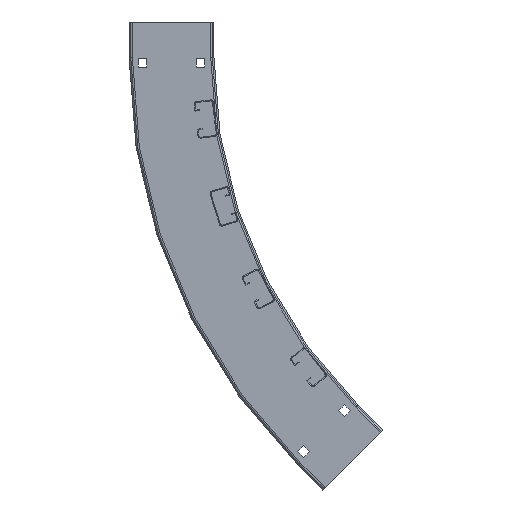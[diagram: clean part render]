
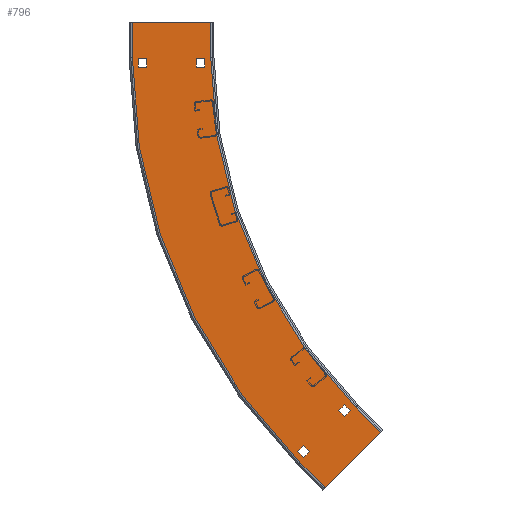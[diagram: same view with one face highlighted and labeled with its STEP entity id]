
A CAD part, left-side view. The second image highlights one B-rep face of the part: STEP entity #796.
In plain terms, the highlighted planar face has unit normal (-1, 0, 0).
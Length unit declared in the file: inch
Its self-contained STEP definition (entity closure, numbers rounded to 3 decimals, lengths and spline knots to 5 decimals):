
#1=DIRECTION('',(0.,-0.707,-0.707));
#2=VECTOR('',#1,3.833);
#3=CARTESIAN_POINT('',(0.,18.55802,21.03289));
#4=LINE('',#3,#2);
#5=DIRECTION('',(0.,1.,0.));
#6=VECTOR('',#5,3.833);
#7=CARTESIAN_POINT('',(0.,24.162,-1.75));
#8=LINE('',#7,#6);
#9=DIRECTION('',(0.,0.,-1.));
#10=VECTOR('',#9,0.41);
#11=CARTESIAN_POINT('',(0.,27.701,0.455));
#12=LINE('',#11,#10);
#13=DIRECTION('',(0.,-1.,0.));
#14=VECTOR('',#13,0.41);
#15=CARTESIAN_POINT('',(0.,27.701,0.045));
#16=LINE('',#15,#14);
#17=DIRECTION('',(0.,0.,1.));
#18=VECTOR('',#17,0.41);
#19=CARTESIAN_POINT('',(0.,27.291,0.045));
#20=LINE('',#19,#18);
#21=DIRECTION('',(0.,1.,0.));
#22=VECTOR('',#21,0.41);
#23=CARTESIAN_POINT('',(0.,27.291,0.455));
#24=LINE('',#23,#22);
#25=DIRECTION('',(0.,1.,0.));
#26=VECTOR('',#25,0.41);
#27=CARTESIAN_POINT('',(0.,24.456,0.455));
#28=LINE('',#27,#26);
#29=DIRECTION('',(0.,0.,-1.));
#30=VECTOR('',#29,0.41);
#31=CARTESIAN_POINT('',(0.,24.866,0.455));
#32=LINE('',#31,#30);
#33=DIRECTION('',(0.,-1.,0.));
#34=VECTOR('',#33,0.41);
#35=CARTESIAN_POINT('',(0.,24.866,0.045));
#36=LINE('',#35,#34);
#37=DIRECTION('',(0.,0.,1.));
#38=VECTOR('',#37,0.41);
#39=CARTESIAN_POINT('',(0.,24.456,0.045));
#40=LINE('',#39,#38);
#41=DIRECTION('',(0.,-0.707,-0.707));
#42=VECTOR('',#41,0.41);
#43=CARTESIAN_POINT('',(0.,17.90378,17.26032));
#44=LINE('',#43,#42);
#45=DIRECTION('',(0.,-0.707,0.707));
#46=VECTOR('',#45,0.41);
#47=CARTESIAN_POINT('',(0.,17.61387,16.9704));
#48=LINE('',#47,#46);
#49=DIRECTION('',(0.,0.707,0.707));
#50=VECTOR('',#49,0.41);
#51=CARTESIAN_POINT('',(0.,17.32396,17.26032));
#52=LINE('',#51,#50);
#53=DIRECTION('',(0.,0.707,-0.707));
#54=VECTOR('',#53,0.41);
#55=CARTESIAN_POINT('',(0.,17.61387,17.55023));
#56=LINE('',#55,#54);
#57=DIRECTION('',(0.,0.707,0.707));
#58=VECTOR('',#57,0.41);
#59=CARTESIAN_POINT('',(0.,19.32869,19.26505));
#60=LINE('',#59,#58);
#61=DIRECTION('',(0.,0.707,-0.707));
#62=VECTOR('',#61,0.41);
#63=CARTESIAN_POINT('',(0.,19.61861,19.55497));
#64=LINE('',#63,#62);
#65=DIRECTION('',(0.,-0.707,-0.707));
#66=VECTOR('',#65,0.41);
#67=CARTESIAN_POINT('',(0.,19.90852,19.26505));
#68=LINE('',#67,#66);
#69=DIRECTION('',(0.,-0.707,0.707));
#70=VECTOR('',#69,0.41);
#71=CARTESIAN_POINT('',(0.,19.61861,18.97514));
#72=LINE('',#71,#70);
#73=DIRECTION('',(0.,0.,1.));
#74=VECTOR('',#73,1.75);
#75=CARTESIAN_POINT('',(0.,27.995,-1.75));
#76=LINE('',#75,#74);
#114=DIRECTION('',(0.,0.,-1.));
#115=VECTOR('',#114,1.75);
#116=CARTESIAN_POINT('',(0.,24.162,0.));
#117=LINE('',#116,#115);
#123=CARTESIAN_POINT('',(0.,0.,0.));
#124=DIRECTION('',(-1.,0.,0.));
#125=DIRECTION('',(0.,0.707,0.707));
#126=AXIS2_PLACEMENT_3D('',#123,#124,#125);
#128=DIRECTION('',(0.,0.707,-0.707));
#129=VECTOR('',#128,1.75);
#130=CARTESIAN_POINT('',(0.,15.84768,18.32255));
#131=LINE('',#130,#129);
#169=DIRECTION('',(0.,-0.707,0.707));
#170=VECTOR('',#169,1.75);
#171=CARTESIAN_POINT('',(0.,19.79545,19.79545));
#172=LINE('',#171,#170);
#178=CARTESIAN_POINT('',(0.,0.,0.));
#179=DIRECTION('',(1.,0.,0.));
#180=DIRECTION('',(0.,1.,0.));
#181=AXIS2_PLACEMENT_3D('',#178,#179,#180);
#573=CARTESIAN_POINT('',(0.,15.84768,18.32255));
#575=VERTEX_POINT('',#573);
#579=CARTESIAN_POINT('',(0.,17.08511,17.08511));
#581=VERTEX_POINT('',#579);
#585=CARTESIAN_POINT('',(0.,24.162,0.));
#587=VERTEX_POINT('',#585);
#591=CARTESIAN_POINT('',(0.,24.162,-1.75));
#593=VERTEX_POINT('',#591);
#621=CARTESIAN_POINT('',(0.,27.995,-1.75));
#622=VERTEX_POINT('',#621);
#623=CARTESIAN_POINT('',(0.,18.55802,21.03289));
#624=VERTEX_POINT('',#623);
#629=CARTESIAN_POINT('',(0.,27.995,0.));
#631=VERTEX_POINT('',#629);
#635=CARTESIAN_POINT('',(0.,19.79545,19.79545));
#637=VERTEX_POINT('',#635);
#669=CARTESIAN_POINT('',(0.,27.701,0.455));
#670=CARTESIAN_POINT('',(0.,27.701,0.045));
#671=VERTEX_POINT('',#669);
#672=VERTEX_POINT('',#670);
#673=CARTESIAN_POINT('',(0.,27.291,0.045));
#674=VERTEX_POINT('',#673);
#675=CARTESIAN_POINT('',(0.,27.291,0.455));
#676=VERTEX_POINT('',#675);
#677=CARTESIAN_POINT('',(0.,24.456,0.455));
#678=CARTESIAN_POINT('',(0.,24.866,0.455));
#679=VERTEX_POINT('',#677);
#680=VERTEX_POINT('',#678);
#681=CARTESIAN_POINT('',(0.,24.866,0.045));
#682=VERTEX_POINT('',#681);
#683=CARTESIAN_POINT('',(0.,24.456,0.045));
#684=VERTEX_POINT('',#683);
#701=CARTESIAN_POINT('',(0.,17.90378,17.26032));
#702=CARTESIAN_POINT('',(0.,17.61387,16.9704));
#703=VERTEX_POINT('',#701);
#704=VERTEX_POINT('',#702);
#705=CARTESIAN_POINT('',(0.,17.32396,17.26032));
#706=VERTEX_POINT('',#705);
#707=CARTESIAN_POINT('',(0.,17.61387,17.55023));
#708=VERTEX_POINT('',#707);
#709=CARTESIAN_POINT('',(0.,19.32869,19.26505));
#710=CARTESIAN_POINT('',(0.,19.61861,19.55497));
#711=VERTEX_POINT('',#709);
#712=VERTEX_POINT('',#710);
#713=CARTESIAN_POINT('',(0.,19.90852,19.26505));
#714=VERTEX_POINT('',#713);
#715=CARTESIAN_POINT('',(0.,19.61861,18.97514));
#716=VERTEX_POINT('',#715);
#733=CARTESIAN_POINT('',(0.,0.,0.));
#734=DIRECTION('',(1.,0.,0.));
#735=DIRECTION('',(0.,0.,-1.));
#736=AXIS2_PLACEMENT_3D('',#733,#734,#735);
#737=PLANE('',#736);
#739=ORIENTED_EDGE('',*,*,#738,.T.);
#741=ORIENTED_EDGE('',*,*,#740,.T.);
#743=ORIENTED_EDGE('',*,*,#742,.T.);
#745=ORIENTED_EDGE('',*,*,#744,.T.);
#747=ORIENTED_EDGE('',*,*,#746,.T.);
#749=ORIENTED_EDGE('',*,*,#748,.T.);
#751=ORIENTED_EDGE('',*,*,#750,.T.);
#753=ORIENTED_EDGE('',*,*,#752,.T.);
#754=EDGE_LOOP('',(#739,#741,#743,#745,#747,#749,#751,#753));
#755=FACE_OUTER_BOUND('',#754,.F.);
#757=ORIENTED_EDGE('',*,*,#756,.T.);
#759=ORIENTED_EDGE('',*,*,#758,.T.);
#761=ORIENTED_EDGE('',*,*,#760,.T.);
#763=ORIENTED_EDGE('',*,*,#762,.T.);
#764=EDGE_LOOP('',(#757,#759,#761,#763));
#765=FACE_BOUND('',#764,.F.);
#767=ORIENTED_EDGE('',*,*,#766,.T.);
#769=ORIENTED_EDGE('',*,*,#768,.T.);
#771=ORIENTED_EDGE('',*,*,#770,.T.);
#773=ORIENTED_EDGE('',*,*,#772,.T.);
#774=EDGE_LOOP('',(#767,#769,#771,#773));
#775=FACE_BOUND('',#774,.F.);
#777=ORIENTED_EDGE('',*,*,#776,.T.);
#779=ORIENTED_EDGE('',*,*,#778,.T.);
#781=ORIENTED_EDGE('',*,*,#780,.T.);
#783=ORIENTED_EDGE('',*,*,#782,.T.);
#784=EDGE_LOOP('',(#777,#779,#781,#783));
#785=FACE_BOUND('',#784,.F.);
#787=ORIENTED_EDGE('',*,*,#786,.T.);
#789=ORIENTED_EDGE('',*,*,#788,.T.);
#791=ORIENTED_EDGE('',*,*,#790,.T.);
#793=ORIENTED_EDGE('',*,*,#792,.T.);
#794=EDGE_LOOP('',(#787,#789,#791,#793));
#795=FACE_BOUND('',#794,.F.);
#796=ADVANCED_FACE('',(#755,#765,#775,#785,#795),#737,.F.);
#127=CIRCLE('',#126,24.162);
#182=CIRCLE('',#181,27.995);
#738=EDGE_CURVE('',#622,#631,#76,.T.);
#740=EDGE_CURVE('',#631,#637,#182,.T.);
#742=EDGE_CURVE('',#637,#624,#172,.T.);
#744=EDGE_CURVE('',#624,#575,#4,.T.);
#746=EDGE_CURVE('',#575,#581,#131,.T.);
#748=EDGE_CURVE('',#581,#587,#127,.T.);
#750=EDGE_CURVE('',#587,#593,#117,.T.);
#752=EDGE_CURVE('',#593,#622,#8,.T.);
#756=EDGE_CURVE('',#671,#672,#12,.T.);
#758=EDGE_CURVE('',#672,#674,#16,.T.);
#760=EDGE_CURVE('',#674,#676,#20,.T.);
#762=EDGE_CURVE('',#676,#671,#24,.T.);
#766=EDGE_CURVE('',#679,#680,#28,.T.);
#768=EDGE_CURVE('',#680,#682,#32,.T.);
#770=EDGE_CURVE('',#682,#684,#36,.T.);
#772=EDGE_CURVE('',#684,#679,#40,.T.);
#776=EDGE_CURVE('',#703,#704,#44,.T.);
#778=EDGE_CURVE('',#704,#706,#48,.T.);
#780=EDGE_CURVE('',#706,#708,#52,.T.);
#782=EDGE_CURVE('',#708,#703,#56,.T.);
#786=EDGE_CURVE('',#711,#712,#60,.T.);
#788=EDGE_CURVE('',#712,#714,#64,.T.);
#790=EDGE_CURVE('',#714,#716,#68,.T.);
#792=EDGE_CURVE('',#716,#711,#72,.T.);
